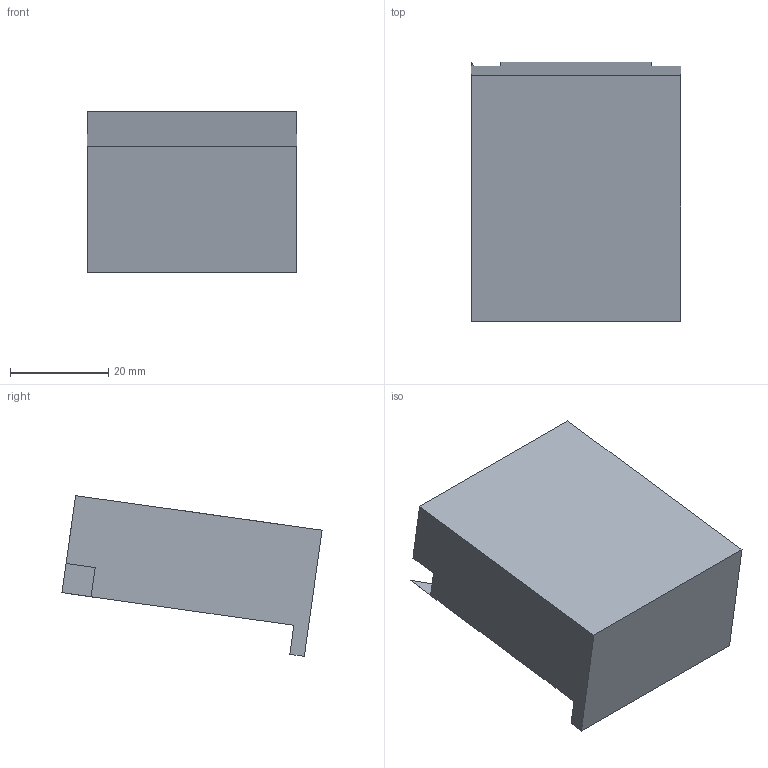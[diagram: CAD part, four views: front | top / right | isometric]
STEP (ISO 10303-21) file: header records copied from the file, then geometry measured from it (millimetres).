
FILE_DESCRIPTION (( 'STEP AP214' ), '1' );
FILE_NAME ('耀撿硌潑30mm px6ax_狟', '2026-07-07T11:30:21', ( '' ), ( '' ), 'SwSTEP 2.0', 'SolidWorks 2024', '' );
FILE_SCHEMA (( 'AUTOMOTIVE_DESIGN' ));
Length unit declared in the file: millimetre
Products named in the file (1): 模具指尖30mm px6ax_下
Bounding box: 42.76 x 53.06 x 32.8 mm (x, y, z)
Volume: 32221.6 mm3; surface area: 9712.6 mm2
Topology: 1 solids, 1 shells, 128 faces, 305 edges, 160 vertices
Faces by surface type: bspline 107, plane 21
Entity records: 8095 total; most frequent: CARTESIAN_POINT 6026, ORIENTED_EDGE 572, EDGE_CURVE 286, B_SPLINE_CURVE_WITH_KNOTS 206, VERTEX_POINT 160, ADVANCED_FACE 128, FACE_OUTER_BOUND 128, EDGE_LOOP 128
